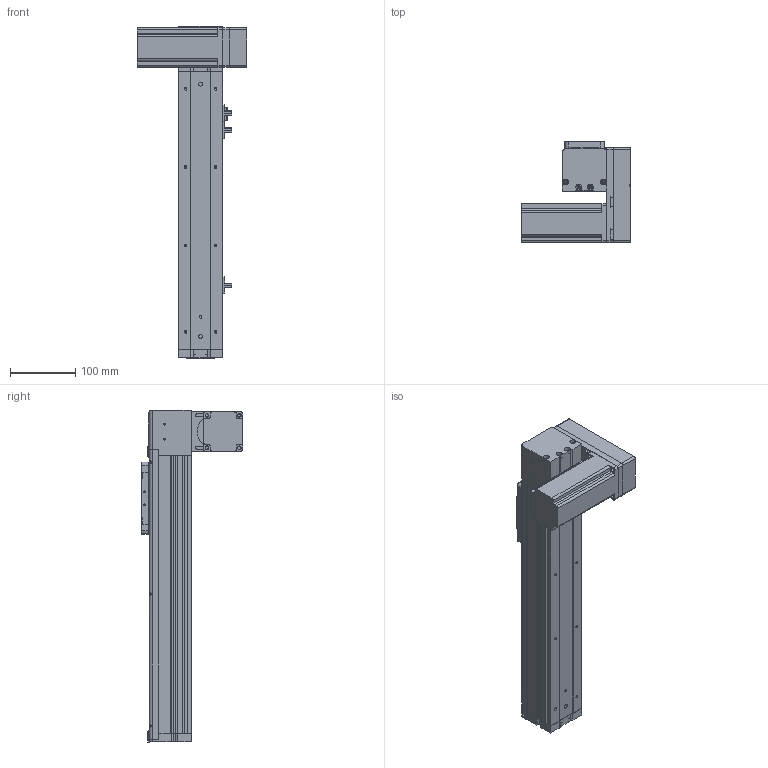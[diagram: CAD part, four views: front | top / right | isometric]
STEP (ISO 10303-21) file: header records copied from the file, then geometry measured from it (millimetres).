
FILE_DESCRIPTION (( 'STEP AP214' ), '1' );
FILE_NAME ('KSD68BS-S250-MLD-CR.STEP', '2019-11-08T01:16:27', ( '微软用户' ), ( '微软中国' ), 'SwSTEP 2.0', 'SolidWorks 2014', '' );
FILE_SCHEMA (( 'AUTOMOTIVE_DESIGN' ));
Length unit declared in the file: millimetre
Products named in the file (14): KSD68BS 250行程侧板全封闭; 68宽单导轨全封闭同步带端板; 68单导轨全封闭同步带电机座左; 68单导轨全封闭同步带安装板; 悵誘欶奻狟殏; 68遵裔啣揤啣1; 68宽马达安装板连板上折同步带; 感应片68宽全封闭; U倰嫖萇EEㄜSX672; 台达ECMA－C20604AS伺服电机（400W); KSD68BS 250行程盖板全封闭; KSD68BS 250行程底板全封闭; KSD68BS-S250-MLD-CR; 68宽单导轨全封闭丝杆传动安装板1防护罩
Assembly tree (17 placements, depth 2):
  KSD68BS-S250-MLD-CR
    KSD68BS 250行程底板全封闭
    台达ECMA－C20604AS伺服电机（400W)
    U倰嫖萇EEㄜSX672  x3
    感应片68宽全封闭
    68宽马达安装板连板上折同步带
    悵誘欶奻狟殏
    68单导轨全封闭同步带安装板
    68单导轨全封闭同步带电机座左
    68宽单导轨全封闭同步带端板
    KSD68BS 250行程侧板全封闭  x2
    68宽单导轨全封闭丝杆传动安装板1防护罩
    68遵裔啣揤啣1  x2
    KSD68BS 250行程盖板全封闭
Bounding box: 167.2 x 155.5 x 508.1 mm (x, y, z)
Volume: 1527109.4 mm3; surface area: 494397.7 mm2
Topology: 18 solids, 18 shells, 1345 faces, 3767 edges, 2426 vertices
Faces by surface type: plane 621, cylinder 596, cone 128
Entity records: 41121 total; most frequent: CARTESIAN_POINT 6925, DIRECTION 6238, ORIENTED_EDGE 5986, EDGE_CURVE 2993, AXIS2_PLACEMENT_3D 2207, VERTEX_POINT 1964, VECTOR 1824, LINE 1824
